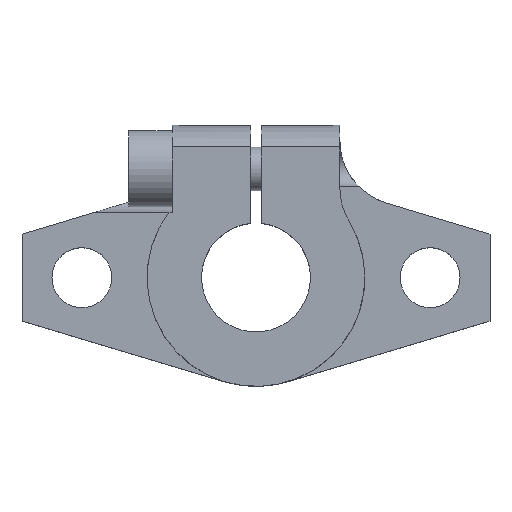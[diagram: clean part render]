
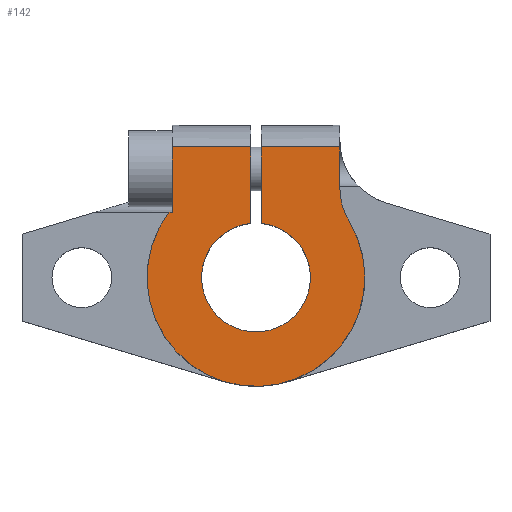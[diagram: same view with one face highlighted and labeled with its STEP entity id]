
A CAD part, top view. The second image highlights one B-rep face of the part: STEP entity #142.
In plain terms, the highlighted planar face has unit normal (0, 0, 1).
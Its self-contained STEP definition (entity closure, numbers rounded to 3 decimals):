
#142=ADVANCED_FACE('',(#212),#213,.F.);
#212=FACE_OUTER_BOUND('',#315,.T.);
#213=PLANE('',#316);
#315=EDGE_LOOP('',(#532,#533,#534,#535,#536,#537,#538,#539,#540,#541));
#316=AXIS2_PLACEMENT_3D('',#542,#543,#544);
#532=ORIENTED_EDGE('',*,*,#730,.F.);
#533=ORIENTED_EDGE('',*,*,#768,.F.);
#534=ORIENTED_EDGE('',*,*,#732,.F.);
#535=ORIENTED_EDGE('',*,*,#769,.F.);
#536=ORIENTED_EDGE('',*,*,#770,.T.);
#537=ORIENTED_EDGE('',*,*,#771,.F.);
#538=ORIENTED_EDGE('',*,*,#772,.F.);
#539=ORIENTED_EDGE('',*,*,#773,.F.);
#540=ORIENTED_EDGE('',*,*,#757,.T.);
#541=ORIENTED_EDGE('',*,*,#774,.F.);
#542=CARTESIAN_POINT('',(32.917,12.0,0.));
#543=DIRECTION('',(0.,0.,-1.0));
#544=DIRECTION('',(0.,1.0,0.));
#730=EDGE_CURVE('',#853,#848,#855,.T.);
#732=EDGE_CURVE('',#856,#858,#859,.T.);
#757=EDGE_CURVE('',#902,#900,#903,.T.);
#768=EDGE_CURVE('',#858,#853,#917,.T.);
#769=EDGE_CURVE('',#918,#856,#919,.T.);
#770=EDGE_CURVE('',#918,#920,#921,.T.);
#771=EDGE_CURVE('',#922,#920,#923,.T.);
#772=EDGE_CURVE('',#924,#922,#925,.T.);
#773=EDGE_CURVE('',#902,#924,#926,.T.);
#774=EDGE_CURVE('',#848,#900,#927,.T.);
#848=VERTEX_POINT('',#1058);
#853=VERTEX_POINT('',#1065);
#855=LINE('',#1068,#1069);
#856=VERTEX_POINT('',#1070);
#858=VERTEX_POINT('',#1073);
#859=CIRCLE('',#1074,6.0);
#900=VERTEX_POINT('',#1134);
#902=VERTEX_POINT('',#1136);
#903=LINE('',#1137,#1138);
#917=CIRCLE('',#1169,10.0);
#918=VERTEX_POINT('',#1170);
#919=LINE('',#1171,#1172);
#920=VERTEX_POINT('',#1173);
#921=LINE('',#1174,#1175);
#922=VERTEX_POINT('',#1176);
#923=LINE('',#1177,#1178);
#924=VERTEX_POINT('',#1179);
#925=CIRCLE('',#1180,5.0);
#926=LINE('',#1181,#1182);
#927=LINE('',#1183,#1184);
#1058=CARTESIAN_POINT('',(-7.7,6.,0.));
#1065=CARTESIAN_POINT('',(-8.,6.,0.));
#1068=CARTESIAN_POINT('',(-8.0,6.,0.));
#1069=VECTOR('',#1338,1.0);
#1070=CARTESIAN_POINT('',(7.7,8.265,0.));
#1073=CARTESIAN_POINT('',(8.563,5.166,0.));
#1074=AXIS2_PLACEMENT_3D('',#1340,#1341,#1342);
#1134=CARTESIAN_POINT('',(-7.7,12.0,0.));
#1136=CARTESIAN_POINT('',(-0.5,12.0,0.0));
#1137=CARTESIAN_POINT('',(32.917,12.0,0.));
#1138=VECTOR('',#1377,1.0);
#1169=AXIS2_PLACEMENT_3D('',#1392,#1393,#1394);
#1170=CARTESIAN_POINT('',(7.7,12.0,0.));
#1171=CARTESIAN_POINT('',(7.7,15.0,0.));
#1172=VECTOR('',#1395,1.0);
#1173=CARTESIAN_POINT('',(0.5,12.0,0.0));
#1174=CARTESIAN_POINT('',(32.917,12.0,0.));
#1175=VECTOR('',#1396,1.0);
#1176=CARTESIAN_POINT('',(0.5,4.975,0.0));
#1177=CARTESIAN_POINT('',(0.5,4.975,0.0));
#1178=VECTOR('',#1397,1.0);
#1179=CARTESIAN_POINT('',(-0.5,4.975,0.0));
#1180=AXIS2_PLACEMENT_3D('',#1398,#1399,#1400);
#1181=CARTESIAN_POINT('',(-0.5,14.0,0.0));
#1182=VECTOR('',#1401,1.0);
#1183=CARTESIAN_POINT('',(-7.7,6.,0.));
#1184=VECTOR('',#1402,1.0);
#1338=DIRECTION('',(1.0,0.0,0.));
#1340=CARTESIAN_POINT('',(13.7,8.265,0.));
#1341=DIRECTION('',(0.,0.,1.0));
#1342=DIRECTION('',(1.0,0.,0.));
#1377=DIRECTION('',(-1.0,0.,0.));
#1392=CARTESIAN_POINT('',(0.,0.0,0.0));
#1393=DIRECTION('',(0.0,0.0,-1.0));
#1394=DIRECTION('',(1.0,0.,0.0));
#1395=DIRECTION('',(0.,-1.0,0.));
#1396=DIRECTION('',(-1.0,0.,0.));
#1397=DIRECTION('',(0.0,1.0,0.0));
#1398=CARTESIAN_POINT('',(0.,0.0,0.0));
#1399=DIRECTION('',(0.0,-0.0,1.0));
#1400=DIRECTION('',(1.0,0.,0.0));
#1401=DIRECTION('',(0.0,-1.0,0.0));
#1402=DIRECTION('',(0.,1.0,0.0));
